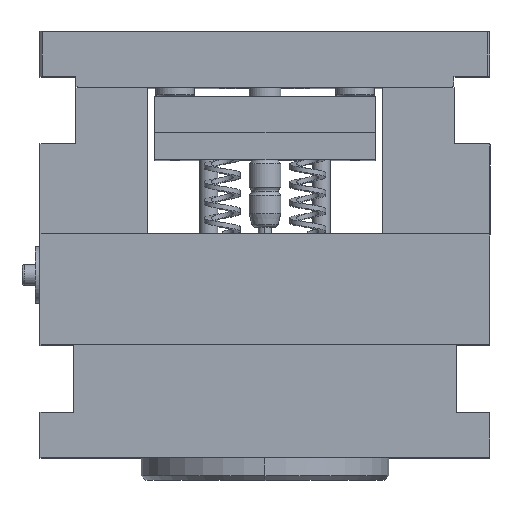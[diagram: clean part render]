
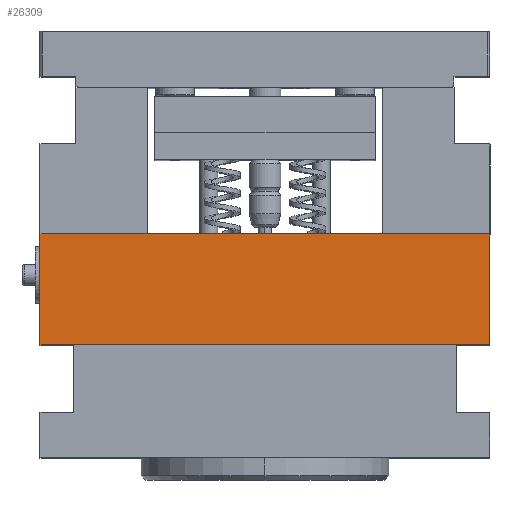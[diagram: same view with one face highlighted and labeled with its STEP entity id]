
A CAD part, top view. The second image highlights one B-rep face of the part: STEP entity #26309.
In plain terms, the highlighted planar face has unit normal (0, 0, 1) as drawn and (0, 1, 0) by its records, which use the part's own axes.
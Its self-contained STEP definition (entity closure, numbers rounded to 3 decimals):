
#4493 = VERTEX_POINT ( 'NONE', #14513 ) ;
#4495 = VERTEX_POINT ( 'NONE', #14515 ) ;
#4540 = VERTEX_POINT ( 'NONE', #14560 ) ;
#4561 = VERTEX_POINT ( 'NONE', #14581 ) ;
#7235 = EDGE_CURVE ( 'NONE', #4540, #4495, #19673, .T. ) ;
#7260 = EDGE_CURVE ( 'NONE', #4561, #4493, #19836, .T. ) ;
#7282 = EDGE_CURVE ( 'NONE', #4540, #4561, #19902, .T. ) ;
#8677 = ORIENTED_EDGE ( 'NONE', *, *, #7235, .T. ) ;
#8678 = ORIENTED_EDGE ( 'NONE', *, *, #13681, .T. ) ;
#8679 = ORIENTED_EDGE ( 'NONE', *, *, #7260, .F. ) ;
#8680 = ORIENTED_EDGE ( 'NONE', *, *, #7282, .F. ) ;
#8784 = EDGE_LOOP ( 'NONE', ( #8678, #8679, #8680, #8677 ) ) ;
#13681 = EDGE_CURVE ( 'NONE', #4495, #4493, #33163, .T. ) ;
#14513 = CARTESIAN_POINT ( 'NONE',  ( 0., 200., 0. ) ) ;
#14515 = CARTESIAN_POINT ( 'NONE',  ( 200., 200., 0. ) ) ;
#14560 = CARTESIAN_POINT ( 'NONE',  ( 200., 200., 49.3 ) ) ;
#14581 = CARTESIAN_POINT ( 'NONE',  ( 0., 200., 49.3 ) ) ;
#18047 = VECTOR ( 'NONE', #19675, 1000. ) ;
#18066 = VECTOR ( 'NONE', #19838, 1000. ) ;
#18089 = VECTOR ( 'NONE', #19904, 1000. ) ;
#19673 = LINE ( 'NONE', #19674, #18047 ) ;
#19674 = CARTESIAN_POINT ( 'NONE',  ( 200., 200., 49.3 ) ) ;
#19675 = DIRECTION ( 'NONE',  ( 0., 0., -1. ) ) ;
#19836 = LINE ( 'NONE', #19837, #18066 ) ;
#19837 = CARTESIAN_POINT ( 'NONE',  ( 0., 200., 49.3 ) ) ;
#19838 = DIRECTION ( 'NONE',  ( 0., 0., -1. ) ) ;
#19902 = LINE ( 'NONE', #19903, #18089 ) ;
#19903 = CARTESIAN_POINT ( 'NONE',  ( 0., 200., 49.3 ) ) ;
#19904 = DIRECTION ( 'NONE',  ( -1., 0., 0. ) ) ;
#26309 = ADVANCED_FACE ( 'NONE', ( #30392 ), #33303, .F. ) ;
#30324 = VECTOR ( 'NONE', #33165, 1000. ) ;
#30392 = FACE_OUTER_BOUND ( 'NONE', #8784, .T. ) ;
#30398 = AXIS2_PLACEMENT_3D ( 'NONE', #33304, #33305, #33306 ) ;
#33163 = LINE ( 'NONE', #33164, #30324 ) ;
#33164 = CARTESIAN_POINT ( 'NONE',  ( 0., 200., 0. ) ) ;
#33165 = DIRECTION ( 'NONE',  ( -1., 0., 0. ) ) ;
#33303 = PLANE ( 'NONE',  #30398 ) ;
#33304 = CARTESIAN_POINT ( 'NONE',  ( 0., 200., 49.3 ) ) ;
#33305 = DIRECTION ( 'NONE',  ( 0., -1., 0. ) ) ;
#33306 = DIRECTION ( 'NONE',  ( 0., 0., -1. ) ) ;
